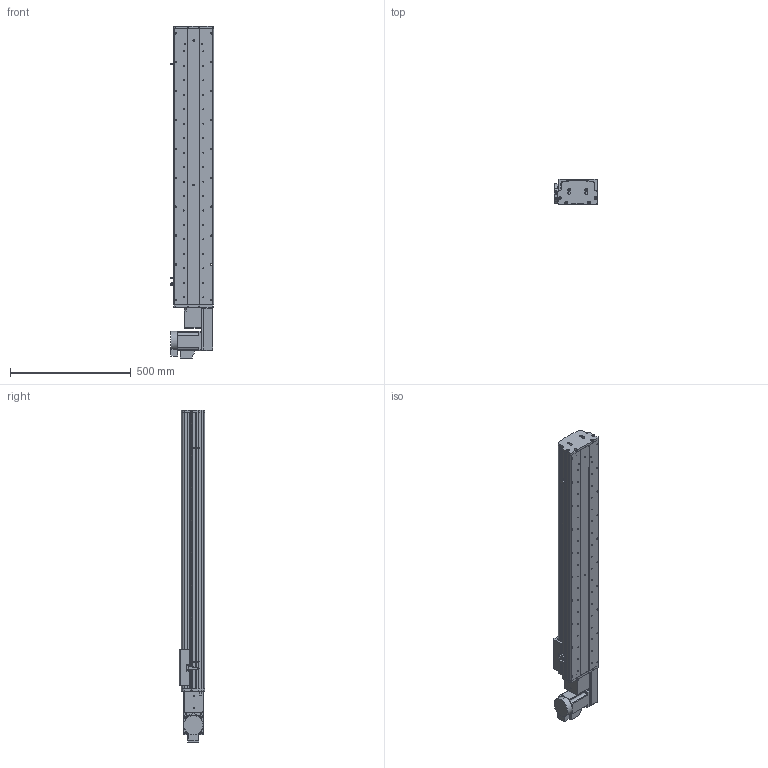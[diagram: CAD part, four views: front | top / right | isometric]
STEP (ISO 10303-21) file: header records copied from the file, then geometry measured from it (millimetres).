
FILE_DESCRIPTION (( 'STEP AP214' ), '1' );
FILE_NAME ('KSD165B-S900-MRB-CM.STEP', '2017-10-16T08:54:57', ( '微软用户' ), ( '微软中国' ), 'SwSTEP 2.0', 'SolidWorks 2014', '' );
FILE_SCHEMA (( 'AUTOMOTIVE_DESIGN' ));
Length unit declared in the file: millimetre
Products named in the file (17): U倰嫖萇假蚾璃; U倰嫖萇EEㄜSX672; 覜茼え68遵圉猾敕; KSD165模组-同步带-防撞垫2; KSD165模组同步带-防撞垫1; KSD165耀郪-ヶ傷啣1-肮祭湍; KSD165模组-后端板1-同步带; KSD165模组-同步带滑动座-最新版; KSD165B-S900-MRB-CM; HTPA26S5M250-A-H8 750W萇儂蚚; HTPA26S5M250-A-H8 400W萇儂蚚 ; 130宽模组马达安装板连板左右折同步带; 130宽模组保护罩上下左右折-同步带; KSD165模组-同步带防尘盖1-900行程-最新版; KSD165模组同步带底板-900行程-最新; 拸秶雄ん750W侜督萇儂; 165宽马达安装板同步带右
Assembly tree (20 placements, depth 2):
  KSD165B-S900-MRB-CM
    KSD165模组-同步带滑动座-最新版
    KSD165模组-后端板1-同步带
    KSD165耀郪-ヶ傷啣1-肮祭湍
    KSD165模组同步带-防撞垫1
    KSD165模组-同步带-防撞垫2
    覜茼え68遵圉猾敕
    U倰嫖萇EEㄜSX672  x3
    U倰嫖萇假蚾璃  x3
    165宽马达安装板同步带右
    拸秶雄ん750W侜督萇儂
    KSD165模组同步带底板-900行程-最新
    KSD165模组-同步带防尘盖1-900行程-最新版
    130宽模组保护罩上下左右折-同步带
    130宽模组马达安装板连板左右折同步带
    HTPA26S5M250-A-H8 400W萇儂蚚 
    HTPA26S5M250-A-H8 750W萇儂蚚
Bounding box: 178.7 x 104 x 1377.5 mm (x, y, z)
Volume: 7466128 mm3; surface area: 1734094.1 mm2
Topology: 21 solids, 21 shells, 1957 faces, 5526 edges, 3608 vertices
Faces by surface type: cylinder 1259, plane 586, cone 112
Entity records: 63532 total; most frequent: CARTESIAN_POINT 13024, DIRECTION 10442, ORIENTED_EDGE 9712, EDGE_CURVE 4856, AXIS2_PLACEMENT_3D 4096, VERTEX_POINT 3200, CIRCLE 2336, LINE 2250
